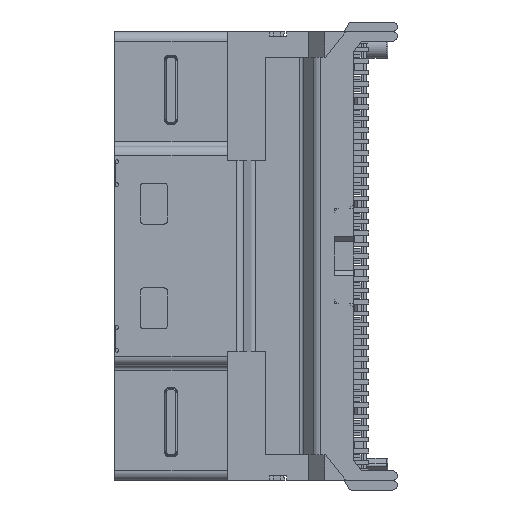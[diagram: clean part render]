
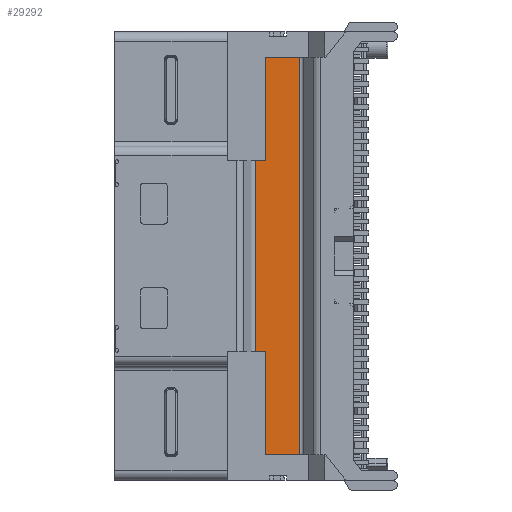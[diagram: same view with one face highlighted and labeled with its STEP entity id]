
A CAD part, left-side view. The second image highlights one B-rep face of the part: STEP entity #29292.
In plain terms, the highlighted planar face has unit normal (-1, 0, 0).
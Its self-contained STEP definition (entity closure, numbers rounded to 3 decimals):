
#2191=DIRECTION('',(0.,-1.,0.));
#2192=VECTOR('',#2191,1.801);
#2193=CARTESIAN_POINT('',(-1.83,6.4,-22.15));
#2194=LINE('',#2193,#2192);
#2456=DIRECTION('',(0.,0.,1.));
#2457=VECTOR('',#2456,20.8);
#2458=CARTESIAN_POINT('',(-1.83,4.599,-22.15));
#2459=LINE('',#2458,#2457);
#2464=DIRECTION('',(0.,-1.,0.));
#2465=VECTOR('',#2464,1.801);
#2466=CARTESIAN_POINT('',(-1.83,6.4,-1.35));
#2467=LINE('',#2466,#2465);
#2472=DIRECTION('',(0.,0.,-1.));
#2473=VECTOR('',#2472,5.4);
#2474=CARTESIAN_POINT('',(-1.83,6.4,-16.75));
#2475=LINE('',#2474,#2473);
#2520=DIRECTION('',(0.,-1.,0.));
#2521=VECTOR('',#2520,0.536);
#2522=CARTESIAN_POINT('',(-1.83,6.936,-16.75));
#2523=LINE('',#2522,#2521);
#2532=DIRECTION('',(0.,1.,0.));
#2533=VECTOR('',#2532,0.536);
#2534=CARTESIAN_POINT('',(-1.83,6.4,-6.75));
#2535=LINE('',#2534,#2533);
#2576=DIRECTION('',(0.,0.,-1.));
#2577=VECTOR('',#2576,5.4);
#2578=CARTESIAN_POINT('',(-1.83,6.4,-1.35));
#2579=LINE('',#2578,#2577);
#2588=DIRECTION('',(0.,0.,-1.));
#2589=VECTOR('',#2588,10.);
#2590=CARTESIAN_POINT('',(-1.83,6.936,-6.75));
#2591=LINE('',#2590,#2589);
#21488=CARTESIAN_POINT('',(-1.83,6.4,-22.15));
#21489=VERTEX_POINT('',#21488);
#21490=CARTESIAN_POINT('',(-1.83,4.599,-22.15));
#21491=VERTEX_POINT('',#21490);
#21634=CARTESIAN_POINT('',(-1.83,4.599,-1.35));
#21635=VERTEX_POINT('',#21634);
#21636=CARTESIAN_POINT('',(-1.83,6.4,-1.35));
#21637=VERTEX_POINT('',#21636);
#21638=CARTESIAN_POINT('',(-1.83,6.4,-16.75));
#21639=VERTEX_POINT('',#21638);
#21640=CARTESIAN_POINT('',(-1.83,6.936,-16.75));
#21641=VERTEX_POINT('',#21640);
#21642=CARTESIAN_POINT('',(-1.83,6.936,-6.75));
#21643=VERTEX_POINT('',#21642);
#21644=CARTESIAN_POINT('',(-1.83,6.4,-6.75));
#21645=VERTEX_POINT('',#21644);
#29272=CARTESIAN_POINT('',(-1.83,13.488,-28.9));
#29273=DIRECTION('',(-1.,0.,0.));
#29274=DIRECTION('',(0.,-1.,0.));
#29275=AXIS2_PLACEMENT_3D('',#29272,#29273,#29274);
#29276=PLANE('',#29275);
#29277=ORIENTED_EDGE('',*,*,#28988,.T.);
#29278=ORIENTED_EDGE('',*,*,#29258,.F.);
#29279=ORIENTED_EDGE('',*,*,#28727,.F.);
#29281=ORIENTED_EDGE('',*,*,#29280,.F.);
#29283=ORIENTED_EDGE('',*,*,#29282,.F.);
#29285=ORIENTED_EDGE('',*,*,#29284,.F.);
#29287=ORIENTED_EDGE('',*,*,#29286,.F.);
#29289=ORIENTED_EDGE('',*,*,#29288,.F.);
#29290=EDGE_LOOP('',(#29277,#29278,#29279,#29281,#29283,#29285,#29287,#29289));
#29291=FACE_OUTER_BOUND('',#29290,.F.);
#28727=EDGE_CURVE('',#21489,#21491,#2194,.T.);
#28988=EDGE_CURVE('',#21637,#21635,#2467,.T.);
#29258=EDGE_CURVE('',#21491,#21635,#2459,.T.);
#29280=EDGE_CURVE('',#21639,#21489,#2475,.T.);
#29282=EDGE_CURVE('',#21641,#21639,#2523,.T.);
#29284=EDGE_CURVE('',#21643,#21641,#2591,.T.);
#29286=EDGE_CURVE('',#21645,#21643,#2535,.T.);
#29288=EDGE_CURVE('',#21637,#21645,#2579,.T.);
#29292=ADVANCED_FACE('',(#29291),#29276,.T.);
